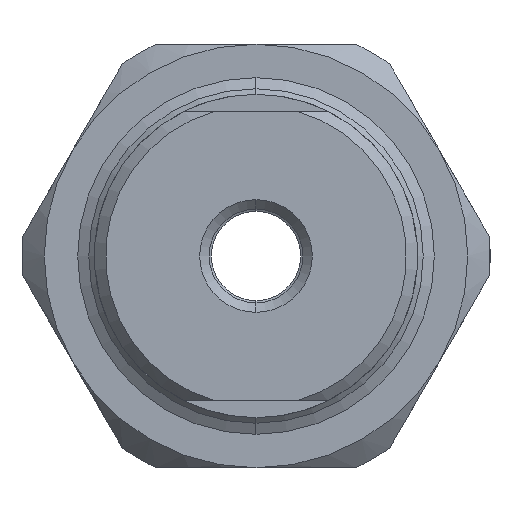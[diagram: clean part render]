
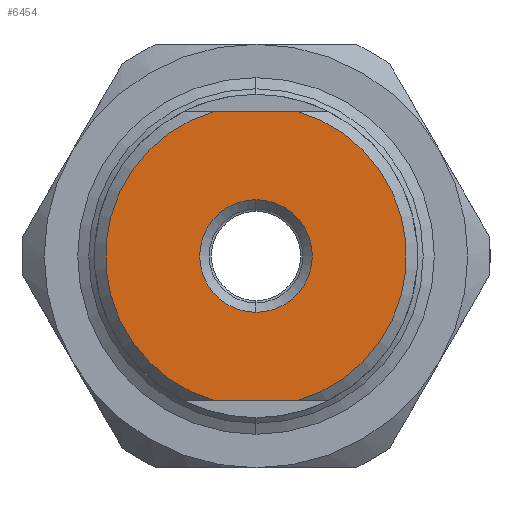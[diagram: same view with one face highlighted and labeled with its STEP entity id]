
A CAD part, front view. The second image highlights one B-rep face of the part: STEP entity #6454.
In plain terms, the highlighted planar face has unit normal (0, -1, 0).
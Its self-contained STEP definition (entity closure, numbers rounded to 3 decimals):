
#405 = VERTEX_POINT ( 'NONE', #8030 ) ;
#464 = CARTESIAN_POINT ( 'NONE',  ( -14.958, -41.012, 62.5 ) ) ;
#559 = CARTESIAN_POINT ( 'NONE',  ( -18.598, -41.012, 62.5 ) ) ;
#897 = DIRECTION ( 'NONE',  ( 0., 1., 0. ) ) ;
#1643 = DIRECTION ( 'NONE',  ( 0., -1., 0. ) ) ;
#1831 = LINE ( 'NONE', #16067, #15577 ) ;
#2240 = VERTEX_POINT ( 'NONE', #559 ) ;
#2255 = VECTOR ( 'NONE', #5706, 1000. ) ;
#2617 = PLANE ( 'NONE',  #13081 ) ;
#2924 = ORIENTED_EDGE ( 'NONE', *, *, #4256, .F. ) ;
#2990 = DIRECTION ( 'NONE',  ( 0., -1., 0. ) ) ;
#3948 = CIRCLE ( 'NONE', #8814, 6.75 ) ;
#4014 = EDGE_LOOP ( 'NONE', ( #18449, #11996 ) ) ;
#4256 = EDGE_CURVE ( 'NONE', #405, #7888, #12347, .T. ) ;
#4528 = EDGE_CURVE ( 'NONE', #405, #2240, #3948, .T. ) ;
#4792 = CARTESIAN_POINT ( 'NONE',  ( -16.778, -41.012, 69. ) ) ;
#5318 = EDGE_CURVE ( 'NONE', #9381, #7888, #7729, .T. ) ;
#5503 = EDGE_CURVE ( 'NONE', #15567, #18002, #15294, .T. ) ;
#5552 = EDGE_CURVE ( 'NONE', #9381, #2240, #1831, .T. ) ;
#5706 = DIRECTION ( 'NONE',  ( 1., 0., 0. ) ) ;
#5832 = DIRECTION ( 'NONE',  ( 0., -1., 0. ) ) ;
#6454 = ADVANCED_FACE ( 'NONE', ( #16046, #11272 ), #2617, .F. ) ;
#6573 = DIRECTION ( 'NONE',  ( 0., 0., 1. ) ) ;
#6843 = EDGE_LOOP ( 'NONE', ( #20268, #15548, #22184, #2924 ) ) ;
#7729 = CIRCLE ( 'NONE', #20160, 6.75 ) ;
#7888 = VERTEX_POINT ( 'NONE', #19084 ) ;
#8030 = CARTESIAN_POINT ( 'NONE',  ( -18.598, -41.012, 75.5 ) ) ;
#8067 = AXIS2_PLACEMENT_3D ( 'NONE', #16616, #5832, #18427 ) ;
#8814 = AXIS2_PLACEMENT_3D ( 'NONE', #4792, #17345, #6573 ) ;
#8955 = CIRCLE ( 'NONE', #8067, 2.525 ) ;
#9381 = VERTEX_POINT ( 'NONE', #464 ) ;
#10995 = EDGE_CURVE ( 'NONE', #18002, #15567, #8955, .T. ) ;
#11272 = FACE_OUTER_BOUND ( 'NONE', #6843, .T. ) ;
#11638 = CARTESIAN_POINT ( 'NONE',  ( -16.778, -41.012, 69. ) ) ;
#11996 = ORIENTED_EDGE ( 'NONE', *, *, #10995, .F. ) ;
#12347 = LINE ( 'NONE', #16498, #2255 ) ;
#12388 = CARTESIAN_POINT ( 'NONE',  ( -16.778, -41.012, 69. ) ) ;
#13081 = AXIS2_PLACEMENT_3D ( 'NONE', #11638, #897, #13442 ) ;
#13442 = DIRECTION ( 'NONE',  ( 0., 0., 1. ) ) ;
#13722 = CARTESIAN_POINT ( 'NONE',  ( -16.778, -41.012, 69. ) ) ;
#14192 = DIRECTION ( 'NONE',  ( 0., 0., -1. ) ) ;
#15294 = CIRCLE ( 'NONE', #17298, 2.525 ) ;
#15522 = DIRECTION ( 'NONE',  ( 0., 0., 1. ) ) ;
#15548 = ORIENTED_EDGE ( 'NONE', *, *, #5552, .F. ) ;
#15567 = VERTEX_POINT ( 'NONE', #19034 ) ;
#15577 = VECTOR ( 'NONE', #21559, 1000. ) ;
#16046 = FACE_BOUND ( 'NONE', #4014, .T. ) ;
#16067 = CARTESIAN_POINT ( 'NONE',  ( -23.116, -41.012, 62.5 ) ) ;
#16498 = CARTESIAN_POINT ( 'NONE',  ( -23.116, -41.012, 75.5 ) ) ;
#16616 = CARTESIAN_POINT ( 'NONE',  ( -16.778, -41.012, 69. ) ) ;
#17298 = AXIS2_PLACEMENT_3D ( 'NONE', #12388, #1643, #14192 ) ;
#17345 = DIRECTION ( 'NONE',  ( 0., -1., 0. ) ) ;
#18002 = VERTEX_POINT ( 'NONE', #20306 ) ;
#18427 = DIRECTION ( 'NONE',  ( 0., 0., -1. ) ) ;
#18449 = ORIENTED_EDGE ( 'NONE', *, *, #5503, .F. ) ;
#19034 = CARTESIAN_POINT ( 'NONE',  ( -16.778, -41.012, 66.475 ) ) ;
#19084 = CARTESIAN_POINT ( 'NONE',  ( -14.958, -41.012, 75.5 ) ) ;
#20160 = AXIS2_PLACEMENT_3D ( 'NONE', #13722, #2990, #15522 ) ;
#20268 = ORIENTED_EDGE ( 'NONE', *, *, #4528, .T. ) ;
#20306 = CARTESIAN_POINT ( 'NONE',  ( -16.778, -41.012, 71.525 ) ) ;
#21559 = DIRECTION ( 'NONE',  ( -1., 0., 0. ) ) ;
#22184 = ORIENTED_EDGE ( 'NONE', *, *, #5318, .T. ) ;
